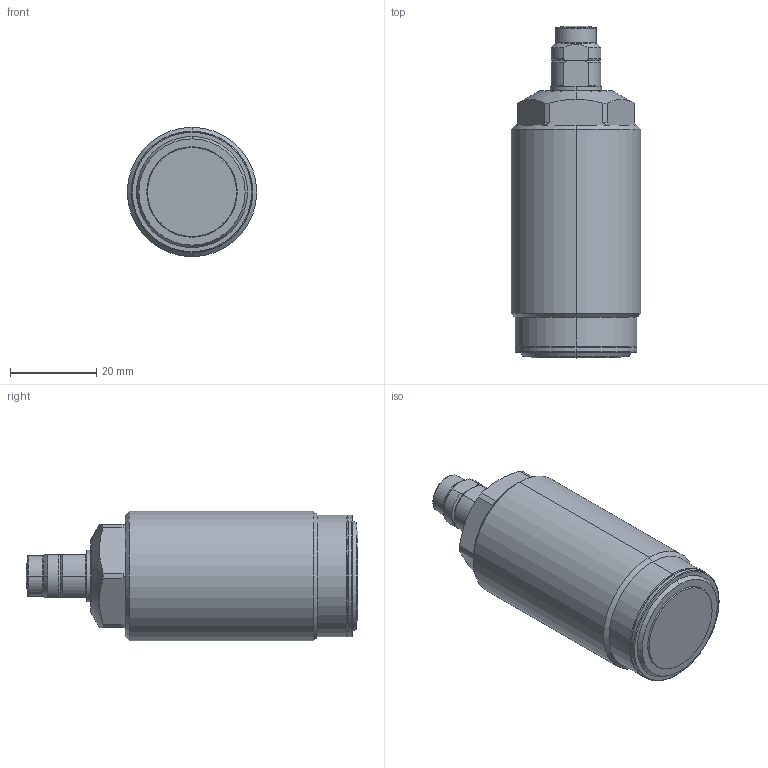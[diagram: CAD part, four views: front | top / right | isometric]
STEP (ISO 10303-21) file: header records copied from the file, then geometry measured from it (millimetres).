
FILE_DESCRIPTION(/* description */ (''),/* implementation_level */ '2;1');
FILE_NAME(/* name */ 'TSC03-M.stp',/* time_stamp */ '2025-01-11T08:10:10+08:00',/* author */ (''),/* organization */ (''),/* preprocessor_version */ 'ST-DEVELOPER v16.7',/* originating_system */ 'SIEMENS PLM Software NX 12.0',/* authorisation */ '');
FILE_SCHEMA (('AUTOMOTIVE_DESIGN { 1 0 10303 214 3 1 1 1 }'));
Length unit declared in the file: millimetre
Products named in the file (8): XLD-M8SP_pad; XLD-M8SP_pin; XLD-M8_Oring; XLD-M8SP_contactbolt; TSC03-M02; TSC03-M01; XLDM8_-M; TSC03_stp
Assembly tree (7 placements, depth 3):
  TSC03_stp
    TSC03-M01
    TSC03-M02
    XLDM8_-M
      XLD-M8SP_contactbolt
      XLD-M8_Oring
      XLD-M8SP_pin
      XLD-M8SP_pad
Bounding box: 30 x 77 x 30 mm (x, y, z)
Volume: 41710.7 mm3; surface area: 9283.7 mm2
Topology: 6 solids, 6 shells, 166 faces, 384 edges, 235 vertices
Faces by surface type: cylinder 54, cone 42, plane 33, torus 31, sphere 6
Entity records: 5304 total; most frequent: CARTESIAN_POINT 1267, DIRECTION 880, ORIENTED_EDGE 768, EDGE_CURVE 384, AXIS2_PLACEMENT_3D 378, VERTEX_POINT 235, CIRCLE 204, EDGE_LOOP 183
